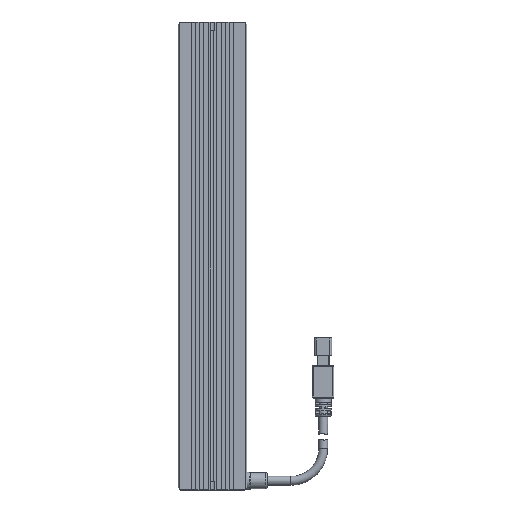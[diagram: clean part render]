
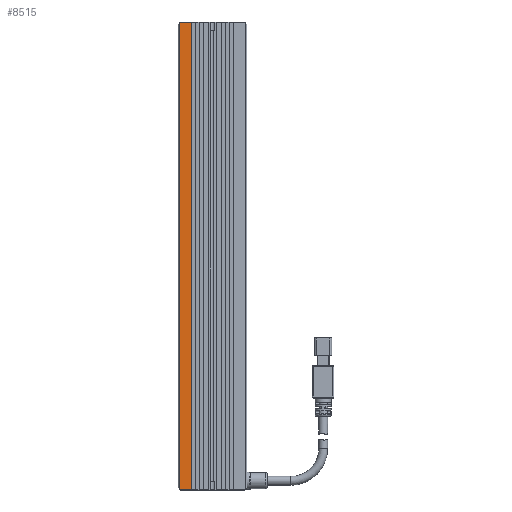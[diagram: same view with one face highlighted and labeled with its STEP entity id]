
A CAD part, top view. The second image highlights one B-rep face of the part: STEP entity #8515.
In plain terms, the highlighted planar face has unit normal (0, 0, 1).
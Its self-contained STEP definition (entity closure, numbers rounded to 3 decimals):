
#526 = ORIENTED_EDGE ( 'NONE', *, *, #2129, .T. ) ;
#554 = VERTEX_POINT ( 'NONE', #9156 ) ;
#823 = VERTEX_POINT ( 'NONE', #14239 ) ;
#945 = VERTEX_POINT ( 'NONE', #3956 ) ;
#1506 = ORIENTED_EDGE ( 'NONE', *, *, #6095, .T. ) ;
#2129 = EDGE_CURVE ( 'NONE', #945, #823, #11204, .T. ) ;
#2538 = VECTOR ( 'NONE', #18063, 1000. ) ;
#2918 = DIRECTION ( 'NONE',  ( -1., 0., 0. ) ) ;
#3542 = CARTESIAN_POINT ( 'NONE',  ( -16., -108., 12.5 ) ) ;
#3837 = EDGE_LOOP ( 'NONE', ( #7765, #526, #16685, #1506, #13683, #15821 ) ) ;
#3956 = CARTESIAN_POINT ( 'NONE',  ( -15., 109., 12.5 ) ) ;
#4006 = CARTESIAN_POINT ( 'NONE',  ( -15., 109., 12.5 ) ) ;
#4822 = VECTOR ( 'NONE', #8434, 1000. ) ;
#4909 = LINE ( 'NONE', #15024, #18589 ) ;
#6095 = EDGE_CURVE ( 'NONE', #554, #18162, #7549, .T. ) ;
#7359 = DIRECTION ( 'NONE',  ( 0., 0., -1. ) ) ;
#7549 = LINE ( 'NONE', #3542, #8953 ) ;
#7652 = CARTESIAN_POINT ( 'NONE',  ( -9.7, 109., 12.5 ) ) ;
#7724 = LINE ( 'NONE', #18069, #15488 ) ;
#7765 = ORIENTED_EDGE ( 'NONE', *, *, #19426, .F. ) ;
#8166 = DIRECTION ( 'NONE',  ( 0.707, -0.707, 0. ) ) ;
#8434 = DIRECTION ( 'NONE',  ( -0.707, -0.707, 0. ) ) ;
#8515 = ADVANCED_FACE ( 'NONE', ( #11567 ), #13399, .F. ) ;
#8953 = VECTOR ( 'NONE', #8166, 1000. ) ;
#9156 = CARTESIAN_POINT ( 'NONE',  ( -15.5, -108.5, 12.5 ) ) ;
#9501 = AXIS2_PLACEMENT_3D ( 'NONE', #19258, #7359, #2918 ) ;
#9687 = CARTESIAN_POINT ( 'NONE',  ( -15.5, 109., 12.5 ) ) ;
#10426 = CARTESIAN_POINT ( 'NONE',  ( -15.5, -109., 12.5 ) ) ;
#11007 = VERTEX_POINT ( 'NONE', #7652 ) ;
#11204 = LINE ( 'NONE', #4006, #4822 ) ;
#11567 = FACE_OUTER_BOUND ( 'NONE', #3837, .T. ) ;
#11698 = VECTOR ( 'NONE', #12693, 1000. ) ;
#12189 = LINE ( 'NONE', #9687, #11698 ) ;
#12423 = CARTESIAN_POINT ( 'NONE',  ( -15., -109., 12.5 ) ) ;
#12693 = DIRECTION ( 'NONE',  ( 0., -1., 0. ) ) ;
#13073 = EDGE_CURVE ( 'NONE', #823, #554, #12189, .T. ) ;
#13399 = PLANE ( 'NONE',  #9501 ) ;
#13683 = ORIENTED_EDGE ( 'NONE', *, *, #19445, .T. ) ;
#13708 = EDGE_CURVE ( 'NONE', #11007, #16755, #7724, .T. ) ;
#14239 = CARTESIAN_POINT ( 'NONE',  ( -15.5, 108.5, 12.5 ) ) ;
#14585 = LINE ( 'NONE', #10426, #2538 ) ;
#14962 = DIRECTION ( 'NONE',  ( 1., 0., 0. ) ) ;
#15024 = CARTESIAN_POINT ( 'NONE',  ( -15.5, 109., 12.5 ) ) ;
#15488 = VECTOR ( 'NONE', #17001, 1000. ) ;
#15821 = ORIENTED_EDGE ( 'NONE', *, *, #13708, .F. ) ;
#16685 = ORIENTED_EDGE ( 'NONE', *, *, #13073, .T. ) ;
#16755 = VERTEX_POINT ( 'NONE', #17931 ) ;
#17001 = DIRECTION ( 'NONE',  ( 0., -1., 0. ) ) ;
#17931 = CARTESIAN_POINT ( 'NONE',  ( -9.7, -109., 12.5 ) ) ;
#18063 = DIRECTION ( 'NONE',  ( 1., 0., 0. ) ) ;
#18069 = CARTESIAN_POINT ( 'NONE',  ( -9.7, 109., 12.5 ) ) ;
#18162 = VERTEX_POINT ( 'NONE', #12423 ) ;
#18589 = VECTOR ( 'NONE', #14962, 1000. ) ;
#19258 = CARTESIAN_POINT ( 'NONE',  ( -15.5, 109., 12.5 ) ) ;
#19426 = EDGE_CURVE ( 'NONE', #945, #11007, #4909, .T. ) ;
#19445 = EDGE_CURVE ( 'NONE', #18162, #16755, #14585, .T. ) ;
